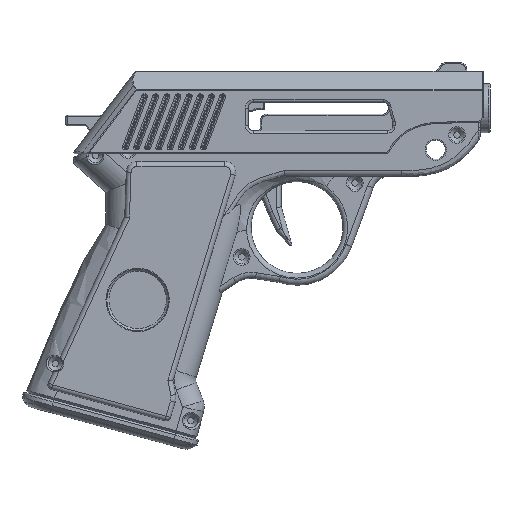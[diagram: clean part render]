
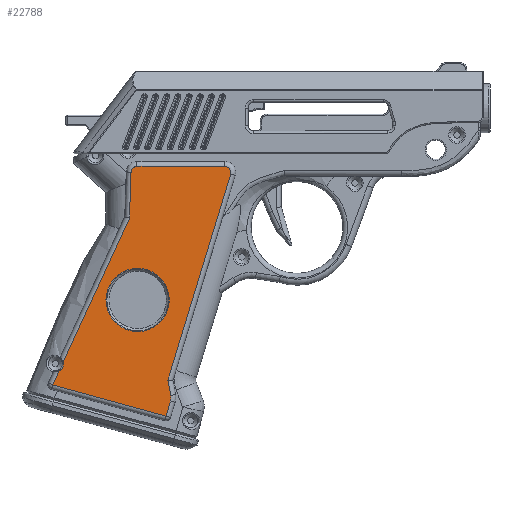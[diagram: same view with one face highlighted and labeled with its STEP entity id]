
A CAD part, left-side view. The second image highlights one B-rep face of the part: STEP entity #22788.
In plain terms, the highlighted planar face has unit normal (-1, 0, 0).
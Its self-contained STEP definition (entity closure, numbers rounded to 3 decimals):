
#764=B_SPLINE_CURVE_WITH_KNOTS('',3,(#41150,#41151,#41152,#41153),
 .UNSPECIFIED.,.F.,.F.,(4,4),(-0.087,0.),
 .UNSPECIFIED.);
#765=B_SPLINE_CURVE_WITH_KNOTS('',3,(#41155,#41156,#41157,#41158),
 .UNSPECIFIED.,.F.,.F.,(4,4),(-0.301,0.),.UNSPECIFIED.);
#766=B_SPLINE_CURVE_WITH_KNOTS('',3,(#41159,#41160,#41161,#41162),
 .UNSPECIFIED.,.F.,.F.,(4,4),(-0.087,0.),
 .UNSPECIFIED.);
#1824=CIRCLE('',#24990,5.);
#1827=CIRCLE('',#24997,2.5);
#1830=CIRCLE('',#25002,2.5);
#1834=CIRCLE('',#25010,13.306);
#2307=FACE_BOUND('',#4965,.T.);
#2486=PLANE('',#25013);
#3502=FACE_OUTER_BOUND('',#4964,.T.);
#4964=EDGE_LOOP('',(#18040,#18041,#18042,#18043,#18044,#18045,#18046,#18047,
#18048,#18049,#18050,#18051,#18052,#18053));
#4965=EDGE_LOOP('',(#18054));
#6348=LINE('',#41039,#7897);
#6349=LINE('',#41043,#7898);
#6350=LINE('',#41051,#7899);
#6351=LINE('',#41055,#7900);
#6352=LINE('',#41065,#7901);
#6353=LINE('',#41071,#7902);
#6356=LINE('',#41146,#7905);
#6357=LINE('',#41163,#7906);
#7897=VECTOR('',#29746,10.);
#7898=VECTOR('',#29749,10.);
#7899=VECTOR('',#29762,10.);
#7900=VECTOR('',#29765,10.);
#7901=VECTOR('',#29780,10.);
#7902=VECTOR('',#29789,10.);
#7905=VECTOR('',#29810,10.);
#7906=VECTOR('',#29813,10.);
#10001=VERTEX_POINT('',#41031);
#10002=VERTEX_POINT('',#41035);
#10003=VERTEX_POINT('',#41041);
#10004=VERTEX_POINT('',#41042);
#10005=VERTEX_POINT('',#41047);
#10006=VERTEX_POINT('',#41053);
#10007=VERTEX_POINT('',#41054);
#10008=VERTEX_POINT('',#41059);
#10009=VERTEX_POINT('',#41063);
#10010=VERTEX_POINT('',#41067);
#10014=VERTEX_POINT('',#41082);
#10017=VERTEX_POINT('',#41139);
#10018=VERTEX_POINT('',#41148);
#10019=VERTEX_POINT('',#41149);
#10020=VERTEX_POINT('',#41154);
#12812=EDGE_CURVE('',#10001,#10002,#6348,.T.);
#12813=EDGE_CURVE('',#10003,#10004,#6349,.T.);
#12817=EDGE_CURVE('',#10004,#10005,#1824,.T.);
#12818=EDGE_CURVE('',#10005,#10001,#6350,.T.);
#12819=EDGE_CURVE('',#10006,#10007,#6351,.T.);
#12823=EDGE_CURVE('',#10007,#10008,#1827,.T.);
#12825=EDGE_CURVE('',#10008,#10009,#6352,.T.);
#12827=EDGE_CURVE('',#10009,#10010,#1830,.T.);
#12828=EDGE_CURVE('',#10010,#10003,#6353,.T.);
#12833=EDGE_CURVE('',#10014,#10014,#1834,.T.);
#12839=EDGE_CURVE('',#10002,#10017,#6356,.T.);
#12840=EDGE_CURVE('',#10018,#10019,#764,.T.);
#12841=EDGE_CURVE('',#10020,#10018,#765,.T.);
#12842=EDGE_CURVE('',#10017,#10020,#766,.T.);
#12843=EDGE_CURVE('',#10019,#10006,#6357,.T.);
#18040=ORIENTED_EDGE('',*,*,#12840,.F.);
#18041=ORIENTED_EDGE('',*,*,#12841,.F.);
#18042=ORIENTED_EDGE('',*,*,#12842,.F.);
#18043=ORIENTED_EDGE('',*,*,#12839,.F.);
#18044=ORIENTED_EDGE('',*,*,#12812,.F.);
#18045=ORIENTED_EDGE('',*,*,#12818,.F.);
#18046=ORIENTED_EDGE('',*,*,#12817,.F.);
#18047=ORIENTED_EDGE('',*,*,#12813,.F.);
#18048=ORIENTED_EDGE('',*,*,#12828,.F.);
#18049=ORIENTED_EDGE('',*,*,#12827,.F.);
#18050=ORIENTED_EDGE('',*,*,#12825,.F.);
#18051=ORIENTED_EDGE('',*,*,#12823,.F.);
#18052=ORIENTED_EDGE('',*,*,#12819,.F.);
#18053=ORIENTED_EDGE('',*,*,#12843,.F.);
#18054=ORIENTED_EDGE('',*,*,#12833,.F.);
#22788=ADVANCED_FACE('',(#3502,#2307),#2486,.T.);
#24990=AXIS2_PLACEMENT_3D('',#41049,#29758,#29759);
#24997=AXIS2_PLACEMENT_3D('',#41061,#29774,#29775);
#25002=AXIS2_PLACEMENT_3D('',#41069,#29785,#29786);
#25010=AXIS2_PLACEMENT_3D('',#41083,#29803,#29804);
#25013=AXIS2_PLACEMENT_3D('',#41147,#29811,#29812);
#29746=DIRECTION('',(0.,0.964,0.266));
#29749=DIRECTION('',(0.,-0.178,-0.984));
#29758=DIRECTION('center_axis',(1.,0.,0.));
#29759=DIRECTION('ref_axis',(0.,-0.998,-0.058));
#29762=DIRECTION('',(0.,0.291,-0.957));
#29765=DIRECTION('',(0.,-0.033,0.999));
#29774=DIRECTION('center_axis',(1.,0.,0.));
#29775=DIRECTION('ref_axis',(0.,0.695,0.719));
#29780=DIRECTION('',(0.,-1.,0.));
#29785=DIRECTION('center_axis',(1.,0.,0.));
#29786=DIRECTION('ref_axis',(0.,-0.803,0.595));
#29789=DIRECTION('',(0.,0.291,-0.957));
#29803=DIRECTION('center_axis',(-1.,0.,0.));
#29804=DIRECTION('ref_axis',(0.,-1.,0.));
#29810=DIRECTION('',(0.,-0.418,0.908));
#29811=DIRECTION('center_axis',(-1.,0.,0.));
#29812=DIRECTION('ref_axis',(0.,-1.,0.));
#29813=DIRECTION('',(0.,-0.418,0.908));
#41031=CARTESIAN_POINT('',(-14.,193.485,-117.005));
#41035=CARTESIAN_POINT('',(-14.,241.087,-103.88));
#41039=CARTESIAN_POINT('',(-14.,229.27,-107.138));
#41041=CARTESIAN_POINT('',(-14.,192.594,-101.843));
#41042=CARTESIAN_POINT('',(-14.,191.421,-108.319));
#41043=CARTESIAN_POINT('',(-14.,195.329,-86.743));
#41047=CARTESIAN_POINT('',(-14.,191.557,-110.665));
#41049=CARTESIAN_POINT('Origin',(-14.,196.341,-109.21));
#41051=CARTESIAN_POINT('',(-14.,186.587,-94.321));
#41053=CARTESIAN_POINT('',(-14.,208.79,-33.74));
#41054=CARTESIAN_POINT('',(-14.,208.146,-14.417));
#41055=CARTESIAN_POINT('',(-14.,208.896,-36.947));
#41059=CARTESIAN_POINT('',(-14.,205.647,-12.));
#41061=CARTESIAN_POINT('Origin',(-14.,205.647,-14.5));
#41063=CARTESIAN_POINT('',(-14.,168.645,-12.));
#41065=CARTESIAN_POINT('',(-14.,182.608,-12.));
#41067=CARTESIAN_POINT('',(-14.,166.253,-15.227));
#41069=CARTESIAN_POINT('Origin',(-14.,168.645,-14.5));
#41071=CARTESIAN_POINT('',(-14.,187.119,-83.839));
#41082=CARTESIAN_POINT('',(-14.,205.359,-54.873));
#41083=CARTESIAN_POINT('Origin',(-14.,205.359,-68.179));
#41139=CARTESIAN_POINT('',(-14.,238.441,-98.133));
#41146=CARTESIAN_POINT('',(-14.,214.097,-45.265));
#41147=CARTESIAN_POINT('Origin',(-14.,202.642,-64.065));
#41148=CARTESIAN_POINT('',(-14.,236.5,-95.006));
#41149=CARTESIAN_POINT('',(-14.,236.605,-94.148));
#41150=CARTESIAN_POINT('Ctrl Pts',(-14.,236.5,-95.006));
#41151=CARTESIAN_POINT('Ctrl Pts',(-14.,236.5,-94.717));
#41152=CARTESIAN_POINT('Ctrl Pts',(-14.,236.535,-94.428));
#41153=CARTESIAN_POINT('Ctrl Pts',(-14.,236.605,-94.148));
#41154=CARTESIAN_POINT('',(-14.,237.72,-97.656));
#41155=CARTESIAN_POINT('Ctrl Pts',(-14.,237.72,-97.656));
#41156=CARTESIAN_POINT('Ctrl Pts',(-14.,236.959,-97.002));
#41157=CARTESIAN_POINT('Ctrl Pts',(-14.,236.502,-96.009));
#41158=CARTESIAN_POINT('Ctrl Pts',(-14.,236.5,-95.006));
#41159=CARTESIAN_POINT('Ctrl Pts',(-14.,238.441,-98.133));
#41160=CARTESIAN_POINT('Ctrl Pts',(-14.,238.182,-98.005));
#41161=CARTESIAN_POINT('Ctrl Pts',(-14.,237.94,-97.844));
#41162=CARTESIAN_POINT('Ctrl Pts',(-14.,237.72,-97.656));
#41163=CARTESIAN_POINT('',(-14.,214.097,-45.265));
